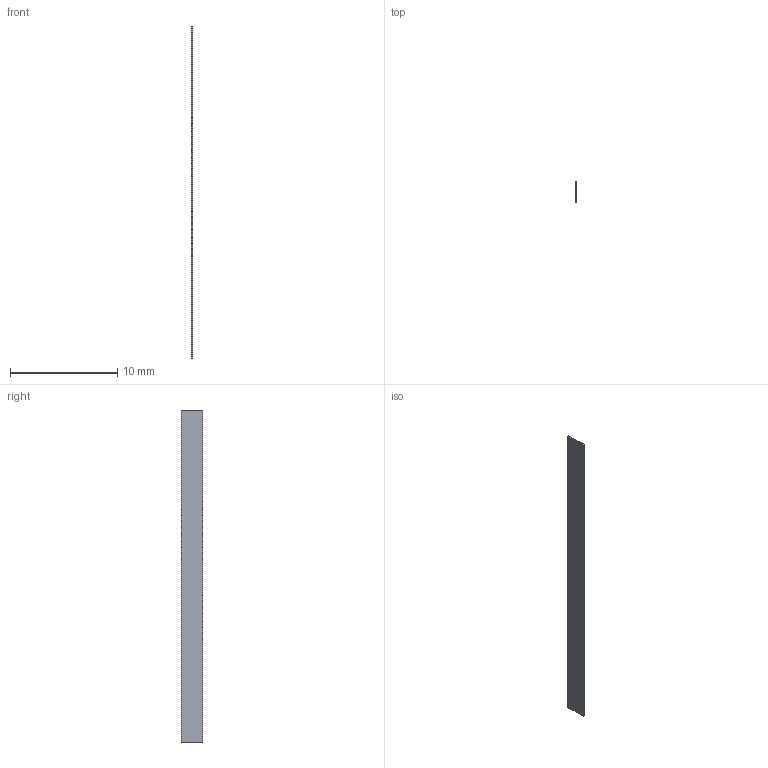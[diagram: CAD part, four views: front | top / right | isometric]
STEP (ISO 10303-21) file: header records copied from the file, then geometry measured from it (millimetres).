
FILE_DESCRIPTION(('Open CASCADE Model'),'2;1');
FILE_NAME('Open CASCADE Shape Model','2026-11-23T18:10:19',('Author'),( 'Open CASCADE'),'Open CASCADE STEP processor 8.0','build123d', 'Unknown');
FILE_SCHEMA(('AUTOMOTIVE_DESIGN { 1 0 10303 214 1 1 1 1 }'));
Length unit declared in the file: millimetre
Products named in the file (2): =>[0:1:1:2]; COMPOUND
Assembly tree (1 placements, depth 2):
  =>[0:1:1:2]
    COMPOUND
Bounding box: 0.13 x 2 x 31 mm (x, y, z)
Volume: 8.1 mm3; surface area: 132.6 mm2
Topology: 1 solids, 1 shells, 6 faces, 12 edges, 8 vertices
Faces by surface type: plane 6
Entity records: 340 total; most frequent: CARTESIAN_POINT 52, DIRECTION 52, LINE 36, VECTOR 36, ORIENTED_EDGE 24, PCURVE 24, DEFINITIONAL_REPRESENTATION 24, EDGE_CURVE 12
